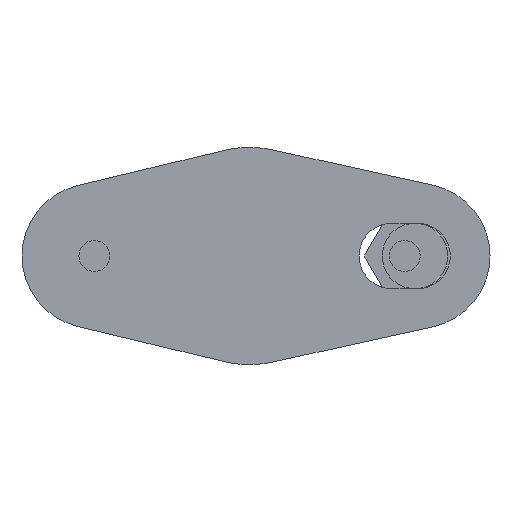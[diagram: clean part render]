
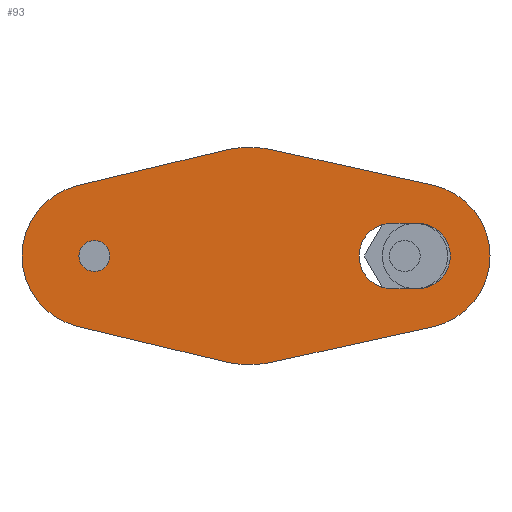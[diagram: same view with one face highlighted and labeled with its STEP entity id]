
A CAD part, front view. The second image highlights one B-rep face of the part: STEP entity #93.
In plain terms, the highlighted planar face has unit normal (0, -1, 0).
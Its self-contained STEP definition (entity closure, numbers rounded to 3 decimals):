
#93=ADVANCED_FACE('',(#179,#180,#181),#182,.F.);
#179=FACE_OUTER_BOUND('',#335,.T.);
#180=FACE_BOUND('',#336,.T.);
#181=FACE_BOUND('',#337,.T.);
#182=PLANE('',#338);
#335=EDGE_LOOP('',(#552,#553,#554,#555,#556,#557,#558,#559,#560,#561));
#336=EDGE_LOOP('',(#562,#563));
#337=EDGE_LOOP('',(#564,#565,#566,#567));
#338=AXIS2_PLACEMENT_3D('',#568,#569,#570);
#552=ORIENTED_EDGE('',*,*,#1067,.F.);
#553=ORIENTED_EDGE('',*,*,#1068,.F.);
#554=ORIENTED_EDGE('',*,*,#1069,.F.);
#555=ORIENTED_EDGE('',*,*,#1070,.F.);
#556=ORIENTED_EDGE('',*,*,#1021,.F.);
#557=ORIENTED_EDGE('',*,*,#1071,.F.);
#558=ORIENTED_EDGE('',*,*,#1072,.F.);
#559=ORIENTED_EDGE('',*,*,#1073,.F.);
#560=ORIENTED_EDGE('',*,*,#1074,.F.);
#561=ORIENTED_EDGE('',*,*,#1051,.F.);
#562=ORIENTED_EDGE('',*,*,#1028,.F.);
#563=ORIENTED_EDGE('',*,*,#1075,.F.);
#564=ORIENTED_EDGE('',*,*,#1076,.T.);
#565=ORIENTED_EDGE('',*,*,#1077,.T.);
#566=ORIENTED_EDGE('',*,*,#1078,.T.);
#567=ORIENTED_EDGE('',*,*,#1079,.T.);
#568=CARTESIAN_POINT('',(30.0,0.0,0.0));
#569=DIRECTION('',(-0.0,1.0,0.0));
#570=DIRECTION('',(1.0,0.0,0.0));
#1021=EDGE_CURVE('',#1188,#1191,#1192,.T.);
#1028=EDGE_CURVE('',#1204,#1205,#1206,.T.);
#1051=EDGE_CURVE('',#1246,#1248,#1249,.T.);
#1067=EDGE_CURVE('',#1275,#1246,#1276,.T.);
#1068=EDGE_CURVE('',#1277,#1275,#1278,.T.);
#1069=EDGE_CURVE('',#1279,#1277,#1280,.T.);
#1070=EDGE_CURVE('',#1191,#1279,#1281,.T.);
#1071=EDGE_CURVE('',#1282,#1188,#1283,.T.);
#1072=EDGE_CURVE('',#1284,#1282,#1285,.T.);
#1073=EDGE_CURVE('',#1286,#1284,#1287,.T.);
#1074=EDGE_CURVE('',#1248,#1286,#1288,.T.);
#1075=EDGE_CURVE('',#1205,#1204,#1289,.T.);
#1076=EDGE_CURVE('',#1290,#1291,#1292,.T.);
#1077=EDGE_CURVE('',#1291,#1293,#1294,.T.);
#1078=EDGE_CURVE('',#1293,#1295,#1296,.T.);
#1079=EDGE_CURVE('',#1295,#1290,#1297,.T.);
#1188=VERTEX_POINT('',#1466);
#1191=VERTEX_POINT('',#1470);
#1192=CIRCLE('',#1471,21.0);
#1204=VERTEX_POINT('',#1486);
#1205=VERTEX_POINT('',#1487);
#1206=CIRCLE('',#1488,3.0);
#1246=VERTEX_POINT('',#1540);
#1248=VERTEX_POINT('',#1543);
#1249=CIRCLE('',#1544,21.0);
#1275=VERTEX_POINT('',#1577);
#1276=CIRCLE('',#1578,21.0);
#1277=VERTEX_POINT('',#1579);
#1278=LINE('',#1580,#1581);
#1279=VERTEX_POINT('',#1582);
#1280=CIRCLE('',#1583,14.0);
#1281=LINE('',#1584,#1585);
#1282=VERTEX_POINT('',#1586);
#1283=CIRCLE('',#1587,21.0);
#1284=VERTEX_POINT('',#1588);
#1285=LINE('',#1589,#1590);
#1286=VERTEX_POINT('',#1591);
#1287=CIRCLE('',#1592,14.0);
#1288=LINE('',#1593,#1594);
#1289=CIRCLE('',#1595,3.0);
#1290=VERTEX_POINT('',#1596);
#1291=VERTEX_POINT('',#1597);
#1292=CIRCLE('',#1598,6.325);
#1293=VERTEX_POINT('',#1599);
#1294=LINE('',#1600,#1601);
#1295=VERTEX_POINT('',#1602);
#1296=CIRCLE('',#1603,6.325);
#1297=LINE('',#1604,#1605);
#1466=CARTESIAN_POINT('',(30.0,0.0,21.0));
#1470=CARTESIAN_POINT('',(34.523,0.0,20.507));
#1471=AXIS2_PLACEMENT_3D('',#1863,#1864,#1865);
#1486=CARTESIAN_POINT('',(0.0,0.0,-3.0));
#1487=CARTESIAN_POINT('',(0.,0.0,3.0));
#1488=AXIS2_PLACEMENT_3D('',#1878,#1879,#1880);
#1540=CARTESIAN_POINT('',(30.0,0.0,-21.0));
#1543=CARTESIAN_POINT('',(25.1,0.0,-20.42));
#1544=AXIS2_PLACEMENT_3D('',#1921,#1922,#1923);
#1577=CARTESIAN_POINT('',(34.523,0.0,-20.507));
#1578=AXIS2_PLACEMENT_3D('',#1955,#1956,#1957);
#1579=CARTESIAN_POINT('',(65.515,0.0,-13.671));
#1580=CARTESIAN_POINT('',(34.523,0.0,-20.507));
#1581=VECTOR('',#1958,1000.0);
#1582=CARTESIAN_POINT('',(65.515,0.0,13.671));
#1583=AXIS2_PLACEMENT_3D('',#1959,#1960,#1961);
#1584=CARTESIAN_POINT('',(34.523,0.0,20.507));
#1585=VECTOR('',#1962,1000.0);
#1586=CARTESIAN_POINT('',(25.1,0.0,20.42));
#1587=AXIS2_PLACEMENT_3D('',#1963,#1964,#1965);
#1588=CARTESIAN_POINT('',(-3.267,0.0,13.614));
#1589=CARTESIAN_POINT('',(25.1,0.0,20.42));
#1590=VECTOR('',#1966,1000.0);
#1591=CARTESIAN_POINT('',(-3.267,0.0,-13.614));
#1592=AXIS2_PLACEMENT_3D('',#1967,#1968,#1969);
#1593=CARTESIAN_POINT('',(25.1,0.0,-20.42));
#1594=VECTOR('',#1970,1000.0);
#1595=AXIS2_PLACEMENT_3D('',#1971,#1972,#1973);
#1596=CARTESIAN_POINT('',(57.5,0.0,-6.325));
#1597=CARTESIAN_POINT('',(57.5,0.0,6.325));
#1598=AXIS2_PLACEMENT_3D('',#1974,#1975,#1976);
#1599=CARTESIAN_POINT('',(62.5,0.0,6.325));
#1600=CARTESIAN_POINT('',(57.5,0.0,6.325));
#1601=VECTOR('',#1977,1000.0);
#1602=CARTESIAN_POINT('',(62.5,0.0,-6.325));
#1603=AXIS2_PLACEMENT_3D('',#1978,#1979,#1980);
#1604=CARTESIAN_POINT('',(57.5,0.0,-6.325));
#1605=VECTOR('',#1981,1000.0);
#1863=CARTESIAN_POINT('',(30.0,0.0,0.0));
#1864=DIRECTION('',(0.0,1.0,0.0));
#1865=DIRECTION('',(0.0,0.0,1.0));
#1878=CARTESIAN_POINT('',(0.0,0.0,0.0));
#1879=DIRECTION('',(0.0,-1.0,0.0));
#1880=DIRECTION('',(0.0,0.0,1.0));
#1921=CARTESIAN_POINT('',(30.0,0.0,0.0));
#1922=DIRECTION('',(0.0,1.0,0.0));
#1923=DIRECTION('',(0.0,0.0,1.0));
#1955=CARTESIAN_POINT('',(30.0,0.0,0.0));
#1956=DIRECTION('',(0.0,1.0,0.0));
#1957=DIRECTION('',(0.0,0.0,1.0));
#1958=DIRECTION('',(-0.977,-0.0,-0.215));
#1959=CARTESIAN_POINT('',(62.5,0.0,0.0));
#1960=DIRECTION('',(0.0,1.0,0.0));
#1961=DIRECTION('',(0.0,0.0,1.0));
#1962=DIRECTION('',(0.977,0.0,-0.215));
#1963=CARTESIAN_POINT('',(30.0,0.0,0.0));
#1964=DIRECTION('',(0.0,1.0,0.0));
#1965=DIRECTION('',(0.0,0.0,1.0));
#1966=DIRECTION('',(0.972,-0.0,0.233));
#1967=CARTESIAN_POINT('',(0.0,0.0,0.0));
#1968=DIRECTION('',(0.0,1.0,0.0));
#1969=DIRECTION('',(0.0,0.0,1.0));
#1970=DIRECTION('',(-0.972,0.0,0.233));
#1971=CARTESIAN_POINT('',(0.0,0.0,0.0));
#1972=DIRECTION('',(0.0,-1.0,0.0));
#1973=DIRECTION('',(0.0,0.0,1.0));
#1974=CARTESIAN_POINT('',(57.5,0.0,0.0));
#1975=DIRECTION('',(0.0,1.0,0.0));
#1976=DIRECTION('',(0.0,0.0,1.0));
#1977=DIRECTION('',(1.0,0.0,0.0));
#1978=CARTESIAN_POINT('',(62.5,0.0,0.0));
#1979=DIRECTION('',(0.0,1.0,0.0));
#1980=DIRECTION('',(0.0,0.0,1.0));
#1981=DIRECTION('',(-1.0,-0.0,-0.0));
